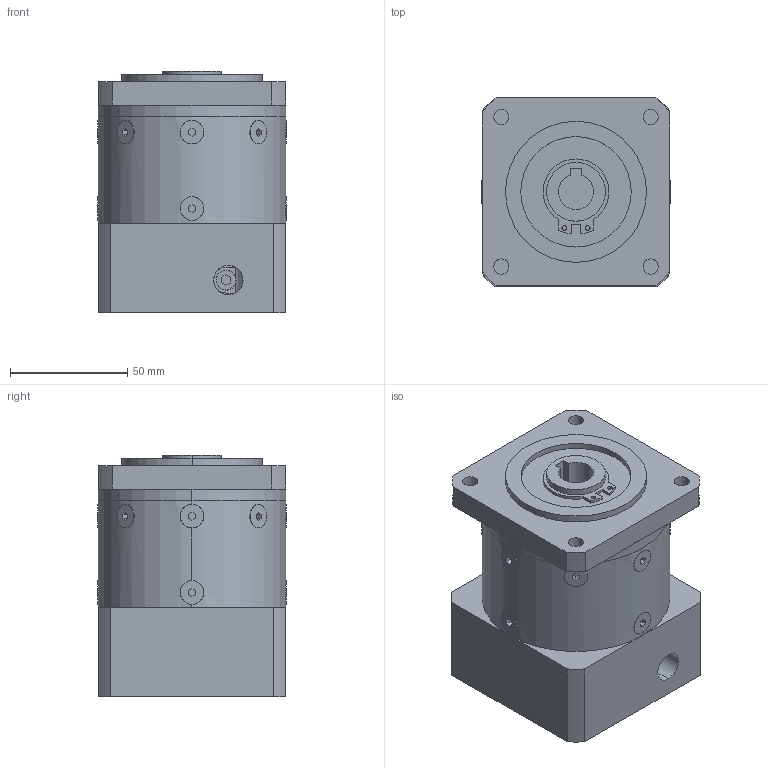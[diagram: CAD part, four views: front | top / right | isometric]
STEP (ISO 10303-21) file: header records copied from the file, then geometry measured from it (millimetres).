
FILE_DESCRIPTION (( 'STEP AP203' ), '1' );
FILE_NAME ('PBF080-L1-19-70-90.STEP', '2022-07-21T08:56:51', ( 'Windows User' ), ( 'P R C' ), 'SwSTEP 2.0', 'SolidWorks 2016', '' );
FILE_SCHEMA (( 'CONFIG_CONTROL_DESIGN' ));
Length unit declared in the file: millimetre
Products named in the file (7): 粣創-6006 30x55x13; PBF080-L1-19-70-90; PBF080 蟀諉啣-梓袧; PBF080 薊粣ん_D7-19 梓袧; PBF080 内齿圈-孔输出-B版_一级内齿圈; PBF080 奻屳唳-謂怀堤15; 囀鞠褒蹟佪-M5℅20
Assembly tree (6 placements, depth 2):
  PBF080-L1-19-70-90
    PBF080 蟀諉啣-梓袧
    PBF080 薊粣ん_D7-19 梓袧
    PBF080 内齿圈-孔输出-B版_一级内齿圈
    PBF080 奻屳唳-謂怀堤15
    囀鞠褒蹟佪-M5℅20
    粣創-6006 30x55x13
Bounding box: 80.1 x 80.1 x 103 mm (x, y, z)
Volume: 478677.4 mm3; surface area: 113886.6 mm2
Topology: 6 solids, 6 shells, 1069 faces, 2905 edges, 1921 vertices
Faces by surface type: plane 565, cylinder 190, bspline 158, sphere 88, torus 48, cone 20
Entity records: 45503 total; most frequent: CARTESIAN_POINT 19021, ORIENTED_EDGE 5778, DIRECTION 4677, EDGE_CURVE 2889, VERTEX_POINT 1921, AXIS2_PLACEMENT_3D 1605, VECTOR 1467, LINE 1467
